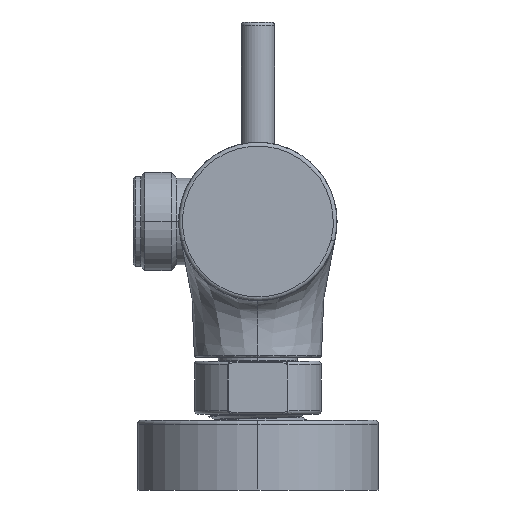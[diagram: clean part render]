
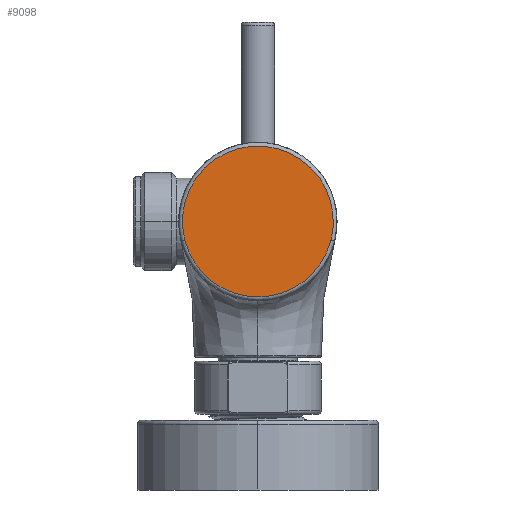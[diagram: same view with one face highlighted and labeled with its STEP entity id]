
A CAD part, left-side view. The second image highlights one B-rep face of the part: STEP entity #9098.
In plain terms, the highlighted planar face has unit normal (-1, 0, 0).
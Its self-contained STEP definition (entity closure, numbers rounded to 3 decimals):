
#2067=CARTESIAN_POINT('',(-101.,0.,0.));
#2068=DIRECTION('',(1.,0.,0.));
#2069=DIRECTION('',(0.,-0.969,-0.249));
#2070=AXIS2_PLACEMENT_3D('',#2067,#2068,#2069);
#2072=CARTESIAN_POINT('',(-101.,0.,0.));
#2073=DIRECTION('',(1.,0.,0.));
#2074=DIRECTION('',(0.,0.969,-0.249));
#2075=AXIS2_PLACEMENT_3D('',#2072,#2073,#2074);
#4983=CARTESIAN_POINT('',(-101.,-19.372,-4.974));
#4984=CARTESIAN_POINT('',(-101.,19.372,-4.974));
#4985=VERTEX_POINT('',#4983);
#4986=VERTEX_POINT('',#4984);
#9089=CARTESIAN_POINT('',(-101.,0.,0.));
#9090=DIRECTION('',(1.,0.,0.));
#9091=DIRECTION('',(0.,-1.,0.));
#9092=AXIS2_PLACEMENT_3D('',#9089,#9090,#9091);
#9093=PLANE('',#9092);
#9094=ORIENTED_EDGE('',*,*,#9068,.T.);
#9095=ORIENTED_EDGE('',*,*,#9083,.T.);
#9096=EDGE_LOOP('',(#9094,#9095));
#9097=FACE_OUTER_BOUND('',#9096,.F.);
#9098=ADVANCED_FACE('',(#9097),#9093,.F.);
#2071=CIRCLE('',#2070,20.);
#2076=CIRCLE('',#2075,20.);
#9068=EDGE_CURVE('',#4985,#4986,#2071,.T.);
#9083=EDGE_CURVE('',#4986,#4985,#2076,.T.);
